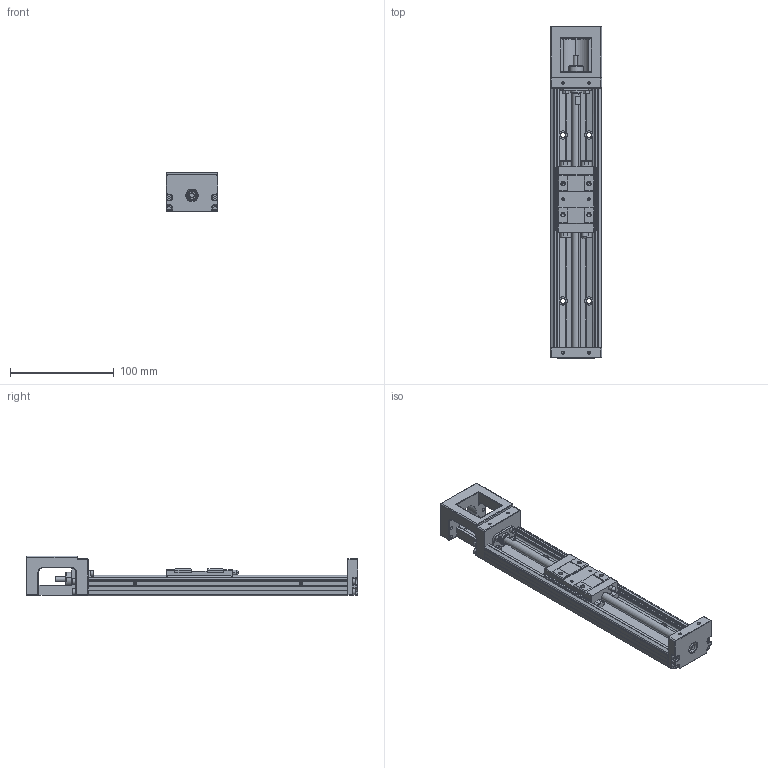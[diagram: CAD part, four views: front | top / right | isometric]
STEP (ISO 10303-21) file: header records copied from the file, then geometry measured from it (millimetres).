
FILE_DESCRIPTION (( 'STEP AP214' ), '1' );
FILE_NAME ('KS50-250A1-F0.STEP', '2020-09-07T01:08:39', ( '' ), ( '' ), 'SwSTEP 2.0', 'SolidWorks 2017', '' );
FILE_SCHEMA (( 'AUTOMOTIVE_DESIGN' ));
Length unit declared in the file: millimetre
Products named in the file (10): 錨璃3; KS50M3囀鞠褒; 錨璃1; KS50佪裝蹟譫; 佪裝250; KS50嘐隅釱; KS50菁釱250; KS50-250A1-F0; KS50盓傅釱; 錨璃2
Assembly tree (20 placements, depth 2):
  KS50-250A1-F0
    KS50菁釱250
    KS50嘐隅釱
    KS50盓傅釱
    KS50佪裝蹟譫
    KS50M3囀鞠褒  x12
    佪裝250
    錨璃2
    錨璃1
    錨璃3
Bounding box: 50 x 320 x 38.5 mm (x, y, z)
Volume: 234472.5 mm3; surface area: 88505.2 mm2
Topology: 22 solids, 24 shells, 995 faces, 2388 edges, 1436 vertices
Faces by surface type: plane 352, cylinder 322, cone 244, torus 75, sphere 2
Entity records: 28623 total; most frequent: DIRECTION 4144, CARTESIAN_POINT 4106, ORIENTED_EDGE 3724, EDGE_CURVE 1862, AXIS2_PLACEMENT_3D 1550, VERTEX_POINT 1148, LINE 1044, VECTOR 1044
